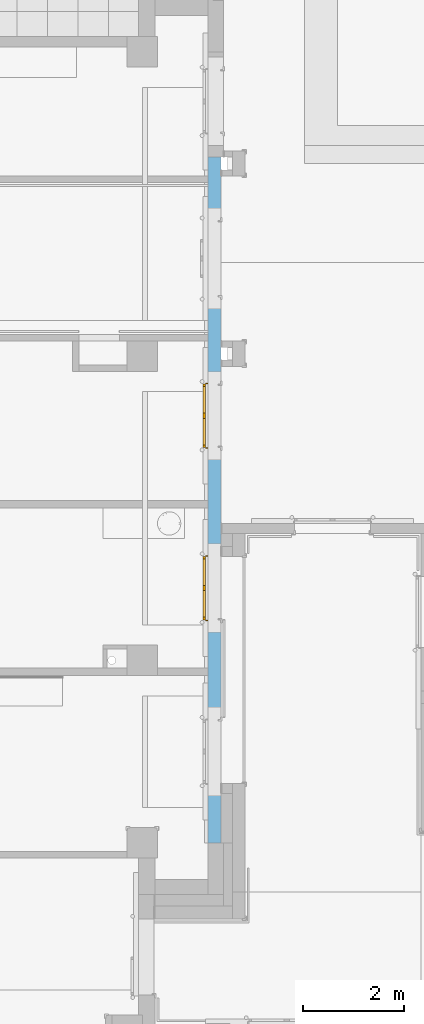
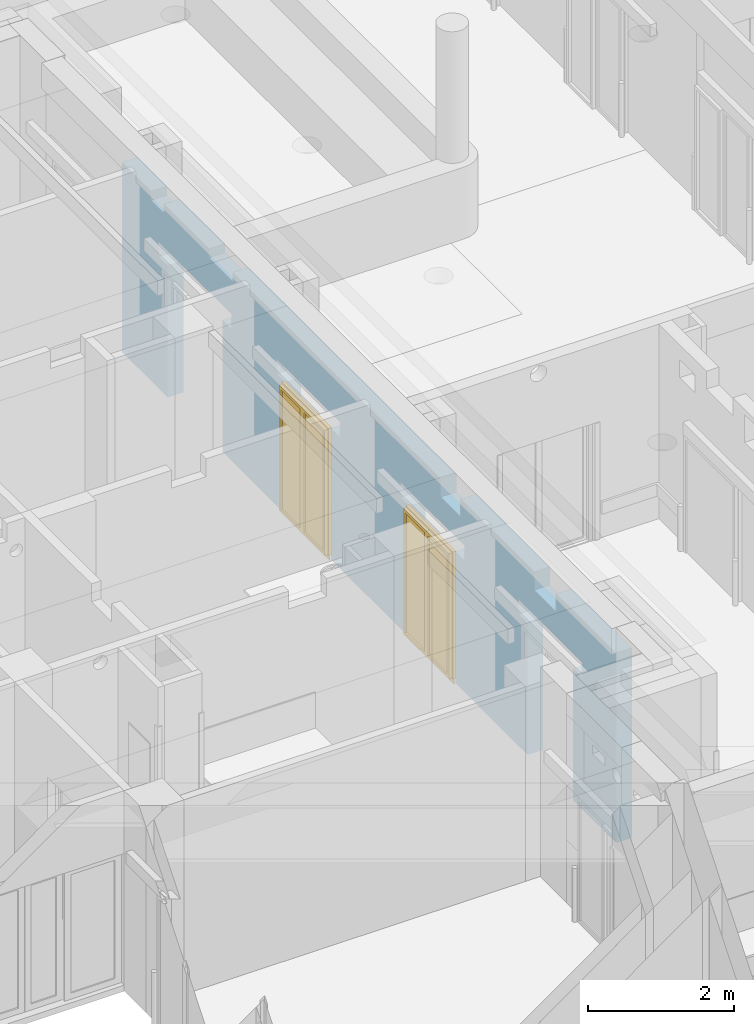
# One storey, part 88 of 140: 2 doors, 8 openings, plus 1 element that does not belong to this part.
"""IFC4 building model written with IfcOpenShell, lengths in metres."""

import ifcopenshell
import ifcopenshell.guid

model = None  # the IFC model being written
_history = None  # IfcOwnerHistory: only IFC2X3 demands one
_inside = {}  # id of a spatial element -> (the spatial element, [elements in it])
_under = {}  # id of a project, library or spatial element -> (it, [spatial elements below it])
_declared = {}  # id of a project -> (the project, [libraries it declares])
_typed = {}  # id of a type object -> (the type object, [elements of that type])
_made_of = {}  # id of a material, layer set ... -> (it, [elements and type objects made of it])


def new_model(schema):
    """Start an empty IFC model of exactly this schema.

    Asked for "IFC4X3", IfcOpenShell would pick the latest addendum, in which some entities
    have other attributes; the version numbers below select the first issue.
    IFC2X3 requires an IfcOwnerHistory on every rooted entity: one is made here for all.
    """
    global model, _history
    if schema == "IFC4X3":
        model = ifcopenshell.file(schema_version=(4, 3, 0, 0))
    else:
        model = ifcopenshell.file(schema=schema)
    _inside.clear()
    _under.clear()
    _declared.clear()
    _typed.clear()
    _made_of.clear()
    _history = None
    if model.schema == "IFC2X3":
        org = make("IfcOrganization", Name="unknown")
        user = make(
            "IfcPersonAndOrganization",
            ThePerson=make("IfcPerson", FamilyName="unknown"),
            TheOrganization=org,
        )
        app = make(
            "IfcApplication",
            ApplicationDeveloper=org,
            Version="unknown",
            ApplicationFullName="unknown",
            ApplicationIdentifier="unknown",
        )
        _history = make(
            "IfcOwnerHistory",
            OwningUser=user,
            OwningApplication=app,
            ChangeAction="ADDED",
            CreationDate=0,
        )
    return model


def make(cls, **values):
    """One entity of the class cls with the attributes given. An attribute that is None is left unset."""
    return model.create_entity(
        cls, **{name: value for name, value in values.items() if value is not None}
    )


def entity(cls, *values):
    """Any entity or typed value of the class cls, its attributes in the order of the schema. None: left unset."""
    e = model.create_entity(cls)
    for i, value in enumerate(values):
        if value is not None:
            e[i] = value
    return e


def rooted(cls, **values):
    """An entity with a GlobalId (a new one), such as an element, a storey or a relation."""
    return make(cls, GlobalId=ifcopenshell.guid.new(), OwnerHistory=_history, **values)


def si_unit(unit_type, name, prefix=None):
    """IfcSIUnit, for example si_unit("LENGTHUNIT", "METRE", prefix="MILLI")."""
    return make("IfcSIUnit", UnitType=unit_type, Prefix=prefix, Name=name)


def converted_unit(unit_type, name, factor, base, dimensions=None, offset=None):
    """IfcConversionBasedUnit, such as the inch: factor (a typed value) times the base unit."""
    return make(
        "IfcConversionBasedUnit"
        if offset is None
        else "IfcConversionBasedUnitWithOffset",
        ConversionOffset=offset,
        Dimensions=None
        if dimensions is None
        else entity("IfcDimensionalExponents", *dimensions),
        UnitType=unit_type,
        Name=name,
        ConversionFactor=make(
            "IfcMeasureWithUnit", ValueComponent=factor, UnitComponent=base
        ),
    )


def derived_unit(unit_type, elements):
    """IfcDerivedUnit: a product of units, each with its exponent."""
    return make(
        "IfcDerivedUnit",
        Elements=[
            make("IfcDerivedUnitElement", Unit=unit, Exponent=power)
            for unit, power in elements
        ],
        UnitType=unit_type,
    )


def assignment(units):
    """IfcUnitAssignment: the units of a project."""
    return None if units is None else make("IfcUnitAssignment", Units=units)


def point(xyz):
    """IfcCartesianPoint."""
    return None if xyz is None else make("IfcCartesianPoint", Coordinates=xyz)


def direction(xyz):
    """IfcDirection."""
    return None if xyz is None else make("IfcDirection", DirectionRatios=xyz)


def frame(location, z_axis=None, x_axis=None):
    """IfcAxis2Placement3D, a coordinate frame: its origin and axes. An axis left out is left unset."""
    return make(
        "IfcAxis2Placement3D",
        Location=point(location),
        Axis=direction(z_axis),
        RefDirection=direction(x_axis),
    )


def origin():
    """The frame at (0, 0, 0) with its axes left unset."""
    return frame((0.0, 0.0, 0.0))


def origin_with_axes():
    """The frame at (0, 0, 0) with the z axis (0, 0, 1) and the x axis (1, 0, 0) written out."""
    return frame((0.0, 0.0, 0.0), z_axis=(0.0, 0.0, 1.0), x_axis=(1.0, 0.0, 0.0))


def place(relative_to, where):
    """IfcLocalPlacement: puts the frame where relative to a parent placement (None: the world)."""
    return make(
        "IfcLocalPlacement", PlacementRelTo=relative_to, RelativePlacement=where
    )


def context(
    kind, dimensions, precision=None, world=None, true_north=None, identifier=None
):
    """IfcGeometricRepresentationContext, for example the 3D "Model" context."""
    return make(
        "IfcGeometricRepresentationContext",
        ContextIdentifier=identifier,
        ContextType=kind,
        CoordinateSpaceDimension=dimensions,
        Precision=precision,
        WorldCoordinateSystem=world,
        TrueNorth=true_north,
    )


def subcontext(parent, identifier, kind, view, scale=None):
    """IfcGeometricRepresentationSubContext, for example "Body" below "Model"."""
    return make(
        "IfcGeometricRepresentationSubContext",
        ContextIdentifier=identifier,
        ContextType=kind,
        ParentContext=parent,
        TargetScale=scale,
        TargetView=view,
    )


def project(units=None, contexts=None):
    """IfcProject with its units and contexts."""
    return rooted(
        "IfcProject",
        Name="project",
        RepresentationContexts=contexts,
        UnitsInContext=assignment(units),
    )


def spatial(cls, under=None, at=None, **own):
    """A site, building, storey or space (cls), placed at a placement, below another one or the project."""
    s = rooted(cls, ObjectPlacement=at, **own)
    if under is not None:
        _under.setdefault(under.id(), (under, []))[1].append(s)
    return s


def polyline(points):
    """IfcPolyline through the points."""
    return make("IfcPolyline", Points=[point(p) for p in points])


def outline(outer, holes=None, kind="AREA"):
    """IfcArbitraryClosedProfileDef: a profile drawn as a closed curve; with holes, ...WithVoids."""
    if holes is None:
        return make("IfcArbitraryClosedProfileDef", ProfileType=kind, OuterCurve=outer)
    return make(
        "IfcArbitraryProfileDefWithVoids",
        ProfileType=kind,
        OuterCurve=outer,
        InnerCurves=holes,
    )


def extrude(swept, where, along, depth):
    """IfcExtrudedAreaSolid: the profile swept, set in the frame where, extruded along a direction by depth."""
    return make(
        "IfcExtrudedAreaSolid",
        SweptArea=swept,
        Position=where,
        ExtrudedDirection=direction(along),
        Depth=depth,
    )


def faces_of(points, faces, orient=None, outer=None):
    """IfcFace entities. A face is a list of loops; a loop is a list of indices into points, from 0.

    orient and outer hold one flag for each loop. By default every Orientation is true, the
    first loop of a face is its IfcFaceOuterBound and the others are IfcFaceBound.
    """
    made = []
    for i, loops in enumerate(faces):
        bounds = []
        for j, loop in enumerate(loops):
            is_outer = j == 0 if outer is None else outer[i][j]
            bounds.append(
                make(
                    "IfcFaceOuterBound" if is_outer else "IfcFaceBound",
                    Bound=make("IfcPolyLoop", Polygon=[points[k] for k in loop]),
                    Orientation=True if orient is None else orient[i][j],
                )
            )
        made.append(make("IfcFace", Bounds=bounds))
    return made


def closed_shell(faces, orient=None, outer=None):
    """The faces of one IfcClosedShell. faceted_brep and surface_model build it on their shared points."""
    return ("IfcClosedShell", faces, orient, outer)


def open_shell(faces, orient=None, outer=None):
    """The faces of one IfcOpenShell. surface_model builds it on its shared points."""
    return ("IfcOpenShell", faces, orient, outer)


def faceted_brep(points, faces, orient=None, outer=None, voids=None):
    """IfcFacetedBrep: a solid bounded by flat faces; with voids (closed shells), ...WithVoids."""
    shared = [point(p) for p in points]
    hull = make("IfcClosedShell", CfsFaces=faces_of(shared, faces, orient, outer))
    if voids is None:
        return make("IfcFacetedBrep", Outer=hull)
    return make(
        "IfcFacetedBrepWithVoids",
        Outer=hull,
        Voids=[
            make(cls, CfsFaces=faces_of(shared, fs, o, b)) for cls, fs, o, b in voids
        ],
    )


def surface_model(cls, points, shells):
    """IfcFaceBasedSurfaceModel or IfcShellBasedSurfaceModel (cls): surfaces that need not close."""
    shared = [point(p) for p in points]
    made = [make(c, CfsFaces=faces_of(shared, fs, o, b)) for c, fs, o, b in shells]
    if cls == "IfcFaceBasedSurfaceModel":
        return make(cls, FbsmFaces=made)
    return make(cls, SbsmBoundary=made)


def shape(context_of_items, identifier, shape_type, items):
    """IfcShapeRepresentation: the items that make up one representation, for example the "Body"."""
    return make(
        "IfcShapeRepresentation",
        ContextOfItems=context_of_items,
        RepresentationIdentifier=identifier,
        RepresentationType=shape_type,
        Items=items,
    )


def source(mapping_origin, context_of_items, identifier, shape_type, items):
    """IfcRepresentationMap: a shape defined once, which mapped items show again and again."""
    return make(
        "IfcRepresentationMap",
        MappingOrigin=mapping_origin,
        MappedRepresentation=shape(context_of_items, identifier, shape_type, items),
    )


def transform(
    local_origin,
    x_axis=None,
    y_axis=None,
    z_axis=None,
    scale=None,
    scale2=None,
    scale3=None,
    uniform=True,
):
    """IfcCartesianTransformationOperator3D, or its non-uniform kind. x_axis, y_axis, z_axis: its Axis1, 2, 3."""
    if uniform:
        return make(
            "IfcCartesianTransformationOperator3D",
            Axis1=direction(x_axis),
            Axis2=direction(y_axis),
            LocalOrigin=point(local_origin),
            Scale=scale,
            Axis3=direction(z_axis),
        )
    return make(
        "IfcCartesianTransformationOperator3DnonUniform",
        Axis1=direction(x_axis),
        Axis2=direction(y_axis),
        LocalOrigin=point(local_origin),
        Scale=scale,
        Axis3=direction(z_axis),
        Scale2=scale2,
        Scale3=scale3,
    )


def mapped(mapping_source, mapping_target):
    """IfcMappedItem: shows the shape of a source again, moved by a transform."""
    return make(
        "IfcMappedItem", MappingSource=mapping_source, MappingTarget=mapping_target
    )


def material(Name=None, Category=None):
    """IfcMaterial."""
    return make("IfcMaterial", Name=Name, Category=Category)


def made_of(thing, what):
    """Note that an element or type object is made of a material, layer set ...; save() writes the relation."""
    if what is not None:
        _made_of.setdefault(what.id(), (what, []))[1].append(thing)
    return thing


def type_object(cls, material=None, **own):
    """A type object (cls), such as IfcWallType, which elements share."""
    return made_of(rooted(cls, **own), material)


def element(
    cls,
    number,
    at=None,
    inside=None,
    cuts=None,
    type_object=None,
    material=None,
    context=None,
    identifier="Body",
    shape_type=None,
    held_by="IfcProductDefinitionShape",
    body=None,
    shapes=None,
    **own,
):
    """One element of the class cls, such as IfcWall. Its Tag is "e" and its number.

    at: its placement. inside: the storey or other place that contains it. cuts: it is an
    opening in that element (IfcRelVoidsElement). A single representation is given by context,
    identifier, shape_type and body (its items); several are given by shapes. held_by: the class
    of the entity that holds the representations. save() writes the other relations.
    """
    e = rooted(cls, Tag="e%d" % number, ObjectPlacement=at, **own)
    if body is not None:
        shapes = [shape(context, identifier, shape_type, body)]
    if shapes is not None:
        e.Representation = make(held_by, Representations=shapes)
    if inside is not None:
        _inside.setdefault(inside.id(), (inside, []))[1].append(e)
    if cuts is not None:
        rooted(
            "IfcRelVoidsElement", RelatingBuildingElement=cuts, RelatedOpeningElement=e
        )
    if type_object is not None:
        _typed.setdefault(type_object.id(), (type_object, []))[1].append(e)
    return made_of(e, material)


def fill(opening, filler):
    """IfcRelFillsElement: the door or window that sits in an opening."""
    return rooted(
        "IfcRelFillsElement",
        RelatingOpeningElement=opening,
        RelatedBuildingElement=filler,
    )


def aggregate(whole, parts):
    """IfcRelAggregates: a whole, such as a stair, and the parts it consists of."""
    return rooted("IfcRelAggregates", RelatingObject=whole, RelatedObjects=parts)


def save(model, path):
    """Write the relations noted so far, then the file.

    IfcRelAggregates (storeys below a building ...), IfcRelContainedInSpatialStructure (elements
    in a storey), IfcRelDefinesByType, IfcRelAssociatesMaterial and IfcRelDeclares: one each for
    every whole, place, type object, material and project.
    """
    for whole, parts in _under.values():
        aggregate(whole, parts)
    for where, things in _inside.values():
        rooted(
            "IfcRelContainedInSpatialStructure",
            RelatedElements=things,
            RelatingStructure=where,
        )
    for kind, things in _typed.values():
        rooted("IfcRelDefinesByType", RelatedObjects=things, RelatingType=kind)
    for what, things in _made_of.values():
        rooted("IfcRelAssociatesMaterial", RelatedObjects=things, RelatingMaterial=what)
    for by, libraries in _declared.values():
        rooted("IfcRelDeclares", RelatingContext=by, RelatedDefinitions=libraries)
    model.write(path)


model = new_model("IFC4")

# Units and contexts
model_context = context("Model", 3, precision=1e-05, world=origin())
body_context = subcontext(model_context, "Body", "Model", "MODEL_VIEW")
ifc_project = project(units=[si_unit("LENGTHUNIT", "METRE"), si_unit("AREAUNIT", "SQUARE_METRE"), si_unit("VOLUMEUNIT", "CUBIC_METRE"), si_unit("MASSUNIT", "GRAM", prefix="KILO"), converted_unit("PLANEANGLEUNIT", "DEGREE", entity("IfcPlaneAngleMeasure", 0.0174532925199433), si_unit("PLANEANGLEUNIT", "RADIAN"), dimensions=[0, 0, 0, 0, 0, 0, 0]), derived_unit("THERMALTRANSMITTANCEUNIT", [(si_unit("POWERUNIT", "WATT"), 1), (si_unit("THERMODYNAMICTEMPERATUREUNIT", "KELVIN"), -1), (si_unit("LENGTHUNIT", "METRE"), -2)]), derived_unit("VOLUMETRICFLOWRATEUNIT", [(si_unit("LENGTHUNIT", "METRE"), 3), (converted_unit("TIMEUNIT", "hour", entity("IfcTimeMeasure", 3600.0), si_unit("TIMEUNIT", "SECOND"), dimensions=[0, 0, 1, 0, 0, 0, 0]), -1), (si_unit("LENGTHUNIT", "METRE"), -1)])], contexts=[model_context])

# Site, building, storey
site_placement = place(None, origin())
site = spatial("IfcSite", under=ifc_project, at=site_placement, Name="3. ASŘ", CompositionType="ELEMENT")
building_placement = place(site_placement, origin())
building = spatial("IfcBuilding", under=site, at=building_placement, Name="Pavilon C", CompositionType="ELEMENT")
storey_placement = place(building_placement, origin())
storey = spatial("IfcBuildingStorey", under=building, at=storey_placement, Name="Půdorys 1.NP", CompositionType="ELEMENT", Elevation=0.0)

# Wall, openings, doors
ifc_material = material(Name="YTONG 250")
wall_placement = place(storey_placement, frame((51.25, 3.6, -0.1)))
wall = element("IfcWall", 1, at=wall_placement, inside=storey, material=ifc_material, Name="YTONG 250", context=body_context, shape_type="Brep", body=[
    faceted_brep([(0.25, 10.525, 2.449), (0.25, 12.525, 2.449), (0.0, 12.525, 2.449), (0.0, 10.525, 2.449), (0.0, 10.525, 2.2), (0.0, 12.525, 2.2), (0.25, 12.525, 2.2), (0.25, 10.525, 2.2), (0.25, 7.54999999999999, 2.449), (0.25, 9.29999999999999, 2.449), (0.0, 9.29999999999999, 2.449), (0.0, 7.54999999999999, 2.449), (0.0, 7.54999999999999, 2.2), (0.0, 9.29999999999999, 2.2), (0.25, 9.29999999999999, 2.2), (0.25, 7.54999999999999, 2.2), (0.25, 4.14999999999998, 2.449), (0.25, 5.89999999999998, 2.449), (0.0, 5.89999999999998, 2.449), (0.0, 4.14999999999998, 2.449), (0.0, 4.14999999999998, 2.2), (0.0, 5.89999999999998, 2.2), (0.25, 5.89999999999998, 2.2), (0.25, 4.14999999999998, 2.2), (0.25, 0.924999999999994, 2.449), (0.25, 2.67499999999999, 2.449), (0.0, 2.67499999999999, 2.449), (0.0, 0.924999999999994, 2.449), (0.0, 0.924999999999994, 2.2), (0.0, 2.67499999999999, 2.2), (0.25, 2.67499999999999, 2.2), (0.25, 0.924999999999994, 2.2), (0.25, 13.525, -2.27373675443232e-16), (0.25, -9.09494701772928e-16, -2.27373675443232e-16), (0.25, -9.09494701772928e-16, 3.17), (0.25, 13.525, 3.17), (0.0, -9.09494701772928e-16, -2.27373675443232e-16), (0.0, -9.09494701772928e-16, 3.17), (0.0, 13.525, -2.27373675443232e-16), (0.0, 13.525, 3.17)], [[[0, 1, 2, 3]], [[4, 5, 6, 7]], [[3, 4, 7, 0]], [[1, 6, 5, 2]], [[8, 9, 10, 11]], [[12, 13, 14, 15]], [[11, 12, 15, 8]], [[9, 14, 13, 10]], [[16, 17, 18, 19]], [[20, 21, 22, 23]], [[19, 20, 23, 16]], [[17, 22, 21, 18]], [[24, 25, 26, 27]], [[28, 29, 30, 31]], [[27, 28, 31, 24]], [[25, 30, 29, 26]], [[32, 33, 34, 35], [6, 1, 0, 7], [14, 9, 8, 15], [22, 17, 16, 23], [30, 25, 24, 31]], [[33, 36, 37, 34]], [[36, 38, 39, 37], [4, 3, 2, 5], [12, 11, 10, 13], [20, 19, 18, 21], [28, 27, 26, 29]], [[38, 32, 35, 39]], [[39, 35, 34, 37]], [[32, 38, 36, 33]]], orient=[[False], [False], [False], [False], [False], [False], [False], [False], [False], [False], [False], [False], [False], [False], [False], [False], [False, False, False, False, False], [False], [False, False, False, False, False], [False], [False], [False]]),
])
opening_1_placement = place(wall_placement, frame((0.25, 1.17499999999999, 0.0), z_axis=(-1.0, 0.0, 0.0), x_axis=(0.0, 0.0, 1.0)))
element("IfcOpeningElement", 2, at=opening_1_placement, cuts=wall, Name="Dveřní otvor", ObjectType="Opening", context=body_context, shape_type="SweptSolid", body=[
    extrude(outline(polyline([(0.0, 1.25), (2.2, 1.25), (2.2, 0.0), (0.0, 0.0), (0.0, 1.25)])), origin_with_axes(), (0.0, 0.0, 1.0), 0.25),
])
opening_2_placement = place(wall_placement, frame((0.25, 10.775, 0.0), z_axis=(-1.0, 0.0, 0.0), x_axis=(0.0, 0.0, 1.0)))
element("IfcOpeningElement", 3, at=opening_2_placement, cuts=wall, Name="Dveřní otvor", ObjectType="Opening", context=body_context, shape_type="SweptSolid", body=[
    extrude(outline(polyline([(0.0, 1.5), (2.2, 1.5), (2.2, 0.0), (0.0, 0.0), (0.0, 1.5)])), origin_with_axes(), (0.0, 0.0, 1.0), 0.25),
])
opening_3_placement = place(wall_placement, frame((0.25, 7.79999999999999, 0.0), z_axis=(-1.0, 0.0, 0.0), x_axis=(0.0, 0.0, 1.0)))
opening_3 = element("IfcOpeningElement", 4, at=opening_3_placement, cuts=wall, Name="Dveřní otvor", ObjectType="Opening", context=body_context, shape_type="SweptSolid", body=[
    extrude(outline(polyline([(0.0, 1.25), (2.2, 1.25), (2.2, 0.0), (0.0, 0.0), (0.0, 1.25)])), origin_with_axes(), (0.0, 0.0, 1.0), 0.25),
])
opening_4_placement = place(wall_placement, frame((0.25, 4.39999999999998, 0.0), z_axis=(-1.0, 0.0, 0.0), x_axis=(0.0, 0.0, 1.0)))
opening_4 = element("IfcOpeningElement", 5, at=opening_4_placement, cuts=wall, Name="Dveřní otvor", ObjectType="Opening", context=body_context, shape_type="SweptSolid", body=[
    extrude(outline(polyline([(0.0, 1.25), (2.2, 1.25), (2.2, 0.0), (0.0, 0.0), (0.0, 1.25)])), origin_with_axes(), (0.0, 0.0, 1.0), 0.25),
])
opening_5_placement = place(wall_placement, frame((0.25, 10.49, 3.02), z_axis=(-1.0, 0.0, 0.0), x_axis=(0.0, 0.0, 1.0)))
element("IfcOpeningElement", 6, at=opening_5_placement, cuts=wall, Name="ELE", ObjectType="Opening", context=body_context, shape_type="SweptSolid", body=[
    extrude(outline(polyline([(0.0, 0.65), (0.15, 0.65), (0.15, 0.0), (0.0, 0.0), (0.0, 0.65)])), origin_with_axes(), (0.0, 0.0, 1.0), 0.25),
])
opening_6_placement = place(wall_placement, frame((0.25, 12.375, 3.02), z_axis=(-1.0, 0.0, 0.0), x_axis=(0.0, 0.0, 1.0)))
element("IfcOpeningElement", 7, at=opening_6_placement, cuts=wall, Name="ELE", ObjectType="Opening", context=body_context, shape_type="SweptSolid", body=[
    extrude(outline(polyline([(0.0, 0.35), (0.15, 0.35), (0.15, 0.0), (0.0, 0.0), (0.0, 0.35)])), origin_with_axes(), (0.0, 0.0, 1.0), 0.25),
])
opening_7_placement = place(wall_placement, frame((0.25, 4.24999335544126, 2.87), z_axis=(-1.0, 0.0, 0.0), x_axis=(0.0, 0.0, 1.0)))
element("IfcOpeningElement", 8, at=opening_7_placement, cuts=wall, Name="VZT", ObjectType="Opening", context=body_context, shape_type="SweptSolid", body=[
    extrude(outline(polyline([(0.0, 0.549999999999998), (0.3, 0.549999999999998), (0.3, 0.0), (0.0, 0.0), (0.0, 0.549999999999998)])), origin_with_axes(), (0.0, 0.0, 1.0), 0.25),
])
opening_8_placement = place(wall_placement, frame((0.25, 1.63696848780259, 2.87), z_axis=(-1.0, 0.0, 0.0), x_axis=(0.0, 0.0, 1.0)))
element("IfcOpeningElement", 9, at=opening_8_placement, cuts=wall, Name="VZT", ObjectType="Opening", context=body_context, shape_type="SweptSolid", body=[
    extrude(outline(polyline([(0.0, 0.6), (0.3, 0.6), (0.3, 0.0), (0.0, 0.0), (0.0, 0.6)])), origin_with_axes(), (0.0, 0.0, 1.0), 0.25),
])
door_type_1 = type_object("IfcDoorType", Name="I.DH09", OperationType="NOTDEFINED", ParameterTakesPrecedence=False, PredefinedType="DOOR")
shared_shape_1 = source(origin_with_axes(), body_context, "Body", "SurfaceModel", [
    surface_model("IfcShellBasedSurfaceModel", [(0.0, 0.075, 0.0), (1.29, 0.075, 0.0), (1.29, 0.075, 0.1), (0.0, 0.075, 0.1)], [open_shell([[[0, 1, 2, 3]]], orient=[[False]])]),
    surface_model("IfcShellBasedSurfaceModel", [(0.0, 0.1, 2.22), (0.0, 0.1, 0.101), (0.02, 0.1, 0.101), (0.02, 0.1, 2.22), (0.0, 0.05, 0.101), (0.0, 0.0500000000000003, 2.22), (0.02, 0.0500000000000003, 2.22), (0.02, 0.05, 0.101)], [closed_shell([[[0, 1, 2, 3]], [[4, 5, 6, 7]], [[1, 0, 5, 4]], [[2, 1, 4, 7]], [[3, 2, 7, 6]], [[0, 3, 6, 5]]], orient=[[False], [False], [False], [False], [False], [False]])]),
    surface_model("IfcShellBasedSurfaceModel", [(1.27, 0.1, 2.22), (1.27, 0.1, 0.101), (1.29, 0.1, 0.101), (1.29, 0.1, 2.22), (1.27, 0.05, 0.101), (1.27, 0.0500000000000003, 2.22), (1.29, 0.0500000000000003, 2.22), (1.29, 0.05, 0.101)], [closed_shell([[[0, 1, 2, 3]], [[4, 5, 6, 7]], [[1, 0, 5, 4]], [[2, 1, 4, 7]], [[3, 2, 7, 6]], [[0, 3, 6, 5]]], orient=[[False], [False], [False], [False], [False], [False]])]),
    surface_model("IfcShellBasedSurfaceModel", [(0.02, 0.1, 2.22), (0.02, 0.1, 2.2), (1.27, 0.1, 2.2), (1.27, 0.1, 2.22), (0.02, 0.0500000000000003, 2.2), (0.02, 0.0500000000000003, 2.22), (1.27, 0.0500000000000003, 2.22), (1.27, 0.0500000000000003, 2.2)], [closed_shell([[[0, 1, 2, 3]], [[4, 5, 6, 7]], [[1, 0, 5, 4]], [[2, 1, 4, 7]], [[3, 2, 7, 6]], [[0, 3, 6, 5]]], orient=[[False], [False], [False], [False], [False], [False]])]),
    surface_model("IfcShellBasedSurfaceModel", [(0.02, 0.0500000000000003, 2.2), (0.02, 0.05, 0.101), (0.07, 0.05, 0.101), (0.07, 0.0500000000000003, 2.2), (0.02, 0.0, 0.101), (0.02, 2.55795384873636e-16, 2.2), (0.07, 2.55795384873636e-16, 2.2), (0.07, 0.0, 0.101)], [closed_shell([[[0, 1, 2, 3]], [[4, 5, 6, 7]], [[1, 0, 5, 4]], [[2, 1, 4, 7]], [[3, 2, 7, 6]], [[0, 3, 6, 5]]], orient=[[False], [False], [False], [False], [False], [False]])]),
    surface_model("IfcShellBasedSurfaceModel", [(0.5945, 0.0500000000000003, 2.2), (0.5945, 0.05, 0.101), (0.6445, 0.05, 0.101), (0.6445, 0.0500000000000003, 2.2), (0.5945, 0.0, 0.101), (0.5945, 2.55795384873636e-16, 2.2), (0.6445, 2.55795384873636e-16, 2.2), (0.6445, 0.0, 0.101)], [closed_shell([[[0, 1, 2, 3]], [[4, 5, 6, 7]], [[1, 0, 5, 4]], [[2, 1, 4, 7]], [[3, 2, 7, 6]], [[0, 3, 6, 5]]], orient=[[False], [False], [False], [False], [False], [False]])]),
    surface_model("IfcShellBasedSurfaceModel", [(0.07, 0.05, 0.151), (0.07, 0.05, 0.101), (0.5945, 0.05, 0.101), (0.5945, 0.05, 0.151), (0.07, 0.0, 0.101), (0.07, 7.105427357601e-18, 0.151), (0.5945, 7.105427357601e-18, 0.151), (0.5945, 0.0, 0.101)], [closed_shell([[[0, 1, 2, 3]], [[4, 5, 6, 7]], [[1, 0, 5, 4]], [[2, 1, 4, 7]], [[3, 2, 7, 6]], [[0, 3, 6, 5]]], orient=[[False], [False], [False], [False], [False], [False]])]),
    surface_model("IfcShellBasedSurfaceModel", [(0.07, 0.0500000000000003, 2.2), (0.07, 0.0500000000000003, 2.15), (0.5945, 0.0500000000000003, 2.15), (0.5945, 0.0500000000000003, 2.2), (0.07, 2.55795384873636e-16, 2.15), (0.07, 2.62900812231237e-16, 2.2), (0.5945, 2.62900812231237e-16, 2.2), (0.5945, 2.55795384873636e-16, 2.15)], [closed_shell([[[0, 1, 2, 3]], [[4, 5, 6, 7]], [[1, 0, 5, 4]], [[2, 1, 4, 7]], [[3, 2, 7, 6]], [[0, 3, 6, 5]]], orient=[[False], [False], [False], [False], [False], [False]])]),
    surface_model("IfcShellBasedSurfaceModel", [(0.6455, 0.0500000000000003, 2.2), (0.6455, 0.05, 0.101), (0.6955, 0.05, 0.101), (0.6955, 0.0500000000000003, 2.2), (0.6455, 0.0, 0.101), (0.6455, 2.55795384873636e-16, 2.2), (0.6955, 2.55795384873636e-16, 2.2), (0.6955, 0.0, 0.101)], [closed_shell([[[0, 1, 2, 3]], [[4, 5, 6, 7]], [[1, 0, 5, 4]], [[2, 1, 4, 7]], [[3, 2, 7, 6]], [[0, 3, 6, 5]]], orient=[[False], [False], [False], [False], [False], [False]])]),
    surface_model("IfcShellBasedSurfaceModel", [(1.22, 0.0500000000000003, 2.2), (1.22, 0.05, 0.101), (1.27, 0.05, 0.101), (1.27, 0.0500000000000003, 2.2), (1.22, 0.0, 0.101), (1.22, 2.55795384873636e-16, 2.2), (1.27, 2.55795384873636e-16, 2.2), (1.27, 0.0, 0.101)], [closed_shell([[[0, 1, 2, 3]], [[4, 5, 6, 7]], [[1, 0, 5, 4]], [[2, 1, 4, 7]], [[3, 2, 7, 6]], [[0, 3, 6, 5]]], orient=[[False], [False], [False], [False], [False], [False]])]),
    surface_model("IfcShellBasedSurfaceModel", [(0.6955, 0.05, 0.151), (0.6955, 0.05, 0.101), (1.22, 0.05, 0.101), (1.22, 0.05, 0.151), (0.6955, 0.0, 0.101), (0.6955, 7.105427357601e-18, 0.151), (1.22, 7.105427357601e-18, 0.151), (1.22, 0.0, 0.101)], [closed_shell([[[0, 1, 2, 3]], [[4, 5, 6, 7]], [[1, 0, 5, 4]], [[2, 1, 4, 7]], [[3, 2, 7, 6]], [[0, 3, 6, 5]]], orient=[[False], [False], [False], [False], [False], [False]])]),
    surface_model("IfcShellBasedSurfaceModel", [(0.6955, 0.0500000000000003, 2.2), (0.6955, 0.0500000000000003, 2.15), (1.22, 0.0500000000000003, 2.15), (1.22, 0.0500000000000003, 2.2), (0.6955, 2.55795384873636e-16, 2.15), (0.6955, 2.62900812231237e-16, 2.2), (1.22, 2.62900812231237e-16, 2.2), (1.22, 2.55795384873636e-16, 2.15)], [closed_shell([[[0, 1, 2, 3]], [[4, 5, 6, 7]], [[1, 0, 5, 4]], [[2, 1, 4, 7]], [[3, 2, 7, 6]], [[0, 3, 6, 5]]], orient=[[False], [False], [False], [False], [False], [False]])]),
    surface_model("IfcShellBasedSurfaceModel", [(0.07, 0.025, 0.151), (0.5945, 0.025, 0.151), (0.5945, 0.0250000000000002, 2.15), (0.07, 0.0250000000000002, 2.15)], [open_shell([[[0, 1, 2, 3]]], orient=[[False]])]),
    surface_model("IfcShellBasedSurfaceModel", [(0.6955, 0.025, 0.151), (1.22, 0.025, 0.151), (1.22, 0.0250000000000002, 2.15), (0.6955, 0.0250000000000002, 2.15)], [open_shell([[[0, 1, 2, 3]]], orient=[[False]])]),
])
door_1_placement = place(opening_3_placement, frame((0.0, -0.0200000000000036, 0.350000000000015), z_axis=(1.0, 0.0, 0.0), x_axis=(0.0, 1.0, -2.44929359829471e-16)))
door_1 = element("IfcDoor", 10, at=door_1_placement, inside=storey, type_object=door_type_1, Name="I.DH09", OverallHeight=2.24, OverallWidth=1.33, context=body_context, shape_type="MappedRepresentation", body=[
    mapped(shared_shape_1, transform((0.0, 0.0, 0.0), x_axis=(1.0, 0.0, 0.0), y_axis=(0.0, -1.0, 0.0), z_axis=(0.0, 0.0, 1.0), scale=1.0)),
])
fill(opening_3, door_1)
door_type_2 = type_object("IfcDoorType", Name="I.DH08", OperationType="NOTDEFINED", ParameterTakesPrecedence=False, PredefinedType="DOOR")
shared_shape_2 = source(origin_with_axes(), body_context, "Body", "SurfaceModel", [
    surface_model("IfcShellBasedSurfaceModel", [(0.0, 0.075, 0.0), (1.29, 0.075, 0.0), (1.29, 0.075, 0.1), (0.0, 0.075, 0.1)], [open_shell([[[0, 1, 2, 3]]], orient=[[False]])]),
    surface_model("IfcShellBasedSurfaceModel", [(0.0, 0.1, 2.22), (0.0, 0.1, 0.101), (0.02, 0.1, 0.101), (0.02, 0.1, 2.22), (0.0, 0.05, 0.101), (0.0, 0.0500000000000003, 2.22), (0.02, 0.0500000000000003, 2.22), (0.02, 0.05, 0.101)], [closed_shell([[[0, 1, 2, 3]], [[4, 5, 6, 7]], [[1, 0, 5, 4]], [[2, 1, 4, 7]], [[3, 2, 7, 6]], [[0, 3, 6, 5]]], orient=[[False], [False], [False], [False], [False], [False]])]),
    surface_model("IfcShellBasedSurfaceModel", [(1.27, 0.1, 2.22), (1.27, 0.1, 0.101), (1.29, 0.1, 0.101), (1.29, 0.1, 2.22), (1.27, 0.05, 0.101), (1.27, 0.0500000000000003, 2.22), (1.29, 0.0500000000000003, 2.22), (1.29, 0.05, 0.101)], [closed_shell([[[0, 1, 2, 3]], [[4, 5, 6, 7]], [[1, 0, 5, 4]], [[2, 1, 4, 7]], [[3, 2, 7, 6]], [[0, 3, 6, 5]]], orient=[[False], [False], [False], [False], [False], [False]])]),
    surface_model("IfcShellBasedSurfaceModel", [(0.02, 0.1, 2.22), (0.02, 0.1, 2.2), (1.27, 0.1, 2.2), (1.27, 0.1, 2.22), (0.02, 0.0500000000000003, 2.2), (0.02, 0.0500000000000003, 2.22), (1.27, 0.0500000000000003, 2.22), (1.27, 0.0500000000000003, 2.2)], [closed_shell([[[0, 1, 2, 3]], [[4, 5, 6, 7]], [[1, 0, 5, 4]], [[2, 1, 4, 7]], [[3, 2, 7, 6]], [[0, 3, 6, 5]]], orient=[[False], [False], [False], [False], [False], [False]])]),
    surface_model("IfcShellBasedSurfaceModel", [(0.02, 0.0500000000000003, 2.2), (0.02, 0.05, 0.101), (0.07, 0.05, 0.101), (0.07, 0.0500000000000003, 2.2), (0.02, 0.0, 0.101), (0.02, 2.55795384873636e-16, 2.2), (0.07, 2.55795384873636e-16, 2.2), (0.07, 0.0, 0.101)], [closed_shell([[[0, 1, 2, 3]], [[4, 5, 6, 7]], [[1, 0, 5, 4]], [[2, 1, 4, 7]], [[3, 2, 7, 6]], [[0, 3, 6, 5]]], orient=[[False], [False], [False], [False], [False], [False]])]),
    surface_model("IfcShellBasedSurfaceModel", [(0.5945, 0.0500000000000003, 2.2), (0.5945, 0.05, 0.101), (0.6445, 0.05, 0.101), (0.6445, 0.0500000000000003, 2.2), (0.5945, 0.0, 0.101), (0.5945, 2.55795384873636e-16, 2.2), (0.6445, 2.55795384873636e-16, 2.2), (0.6445, 0.0, 0.101)], [closed_shell([[[0, 1, 2, 3]], [[4, 5, 6, 7]], [[1, 0, 5, 4]], [[2, 1, 4, 7]], [[3, 2, 7, 6]], [[0, 3, 6, 5]]], orient=[[False], [False], [False], [False], [False], [False]])]),
    surface_model("IfcShellBasedSurfaceModel", [(0.07, 0.05, 0.151), (0.07, 0.05, 0.101), (0.5945, 0.05, 0.101), (0.5945, 0.05, 0.151), (0.07, 0.0, 0.101), (0.07, 7.105427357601e-18, 0.151), (0.5945, 7.105427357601e-18, 0.151), (0.5945, 0.0, 0.101)], [closed_shell([[[0, 1, 2, 3]], [[4, 5, 6, 7]], [[1, 0, 5, 4]], [[2, 1, 4, 7]], [[3, 2, 7, 6]], [[0, 3, 6, 5]]], orient=[[False], [False], [False], [False], [False], [False]])]),
    surface_model("IfcShellBasedSurfaceModel", [(0.07, 0.0500000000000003, 2.2), (0.07, 0.0500000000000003, 2.15), (0.5945, 0.0500000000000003, 2.15), (0.5945, 0.0500000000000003, 2.2), (0.07, 2.55795384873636e-16, 2.15), (0.07, 2.62900812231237e-16, 2.2), (0.5945, 2.62900812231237e-16, 2.2), (0.5945, 2.55795384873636e-16, 2.15)], [closed_shell([[[0, 1, 2, 3]], [[4, 5, 6, 7]], [[1, 0, 5, 4]], [[2, 1, 4, 7]], [[3, 2, 7, 6]], [[0, 3, 6, 5]]], orient=[[False], [False], [False], [False], [False], [False]])]),
    surface_model("IfcShellBasedSurfaceModel", [(0.6455, 0.0500000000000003, 2.2), (0.6455, 0.05, 0.101), (0.6955, 0.05, 0.101), (0.6955, 0.0500000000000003, 2.2), (0.6455, 0.0, 0.101), (0.6455, 2.55795384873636e-16, 2.2), (0.6955, 2.55795384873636e-16, 2.2), (0.6955, 0.0, 0.101)], [closed_shell([[[0, 1, 2, 3]], [[4, 5, 6, 7]], [[1, 0, 5, 4]], [[2, 1, 4, 7]], [[3, 2, 7, 6]], [[0, 3, 6, 5]]], orient=[[False], [False], [False], [False], [False], [False]])]),
    surface_model("IfcShellBasedSurfaceModel", [(1.22, 0.0500000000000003, 2.2), (1.22, 0.05, 0.101), (1.27, 0.05, 0.101), (1.27, 0.0500000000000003, 2.2), (1.22, 0.0, 0.101), (1.22, 2.55795384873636e-16, 2.2), (1.27, 2.55795384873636e-16, 2.2), (1.27, 0.0, 0.101)], [closed_shell([[[0, 1, 2, 3]], [[4, 5, 6, 7]], [[1, 0, 5, 4]], [[2, 1, 4, 7]], [[3, 2, 7, 6]], [[0, 3, 6, 5]]], orient=[[False], [False], [False], [False], [False], [False]])]),
    surface_model("IfcShellBasedSurfaceModel", [(0.6955, 0.05, 0.151), (0.6955, 0.05, 0.101), (1.22, 0.05, 0.101), (1.22, 0.05, 0.151), (0.6955, 0.0, 0.101), (0.6955, 7.105427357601e-18, 0.151), (1.22, 7.105427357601e-18, 0.151), (1.22, 0.0, 0.101)], [closed_shell([[[0, 1, 2, 3]], [[4, 5, 6, 7]], [[1, 0, 5, 4]], [[2, 1, 4, 7]], [[3, 2, 7, 6]], [[0, 3, 6, 5]]], orient=[[False], [False], [False], [False], [False], [False]])]),
    surface_model("IfcShellBasedSurfaceModel", [(0.6955, 0.0500000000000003, 2.2), (0.6955, 0.0500000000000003, 2.15), (1.22, 0.0500000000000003, 2.15), (1.22, 0.0500000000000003, 2.2), (0.6955, 2.55795384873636e-16, 2.15), (0.6955, 2.62900812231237e-16, 2.2), (1.22, 2.62900812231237e-16, 2.2), (1.22, 2.55795384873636e-16, 2.15)], [closed_shell([[[0, 1, 2, 3]], [[4, 5, 6, 7]], [[1, 0, 5, 4]], [[2, 1, 4, 7]], [[3, 2, 7, 6]], [[0, 3, 6, 5]]], orient=[[False], [False], [False], [False], [False], [False]])]),
    surface_model("IfcShellBasedSurfaceModel", [(0.07, 0.025, 0.151), (0.5945, 0.025, 0.151), (0.5945, 0.0250000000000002, 2.15), (0.07, 0.0250000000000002, 2.15)], [open_shell([[[0, 1, 2, 3]]], orient=[[False]])]),
    surface_model("IfcShellBasedSurfaceModel", [(0.6955, 0.025, 0.151), (1.22, 0.025, 0.151), (1.22, 0.0250000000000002, 2.15), (0.6955, 0.0250000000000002, 2.15)], [open_shell([[[0, 1, 2, 3]]], orient=[[False]])]),
])
door_2_placement = place(opening_4_placement, frame((0.0, -0.0200000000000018, 0.350000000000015), z_axis=(1.0, 0.0, 0.0), x_axis=(0.0, 1.0, -2.44929359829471e-16)))
door_2 = element("IfcDoor", 11, at=door_2_placement, inside=storey, type_object=door_type_2, Name="I.DH08", OverallHeight=2.24, OverallWidth=1.33, context=body_context, shape_type="MappedRepresentation", body=[
    mapped(shared_shape_2, transform((0.0, 0.0, 0.0), x_axis=(1.0, 0.0, 0.0), y_axis=(0.0, -1.0, 0.0), z_axis=(0.0, 0.0, 1.0), scale=1.0)),
])
fill(opening_4, door_2)

save(model, "model.ifc")
